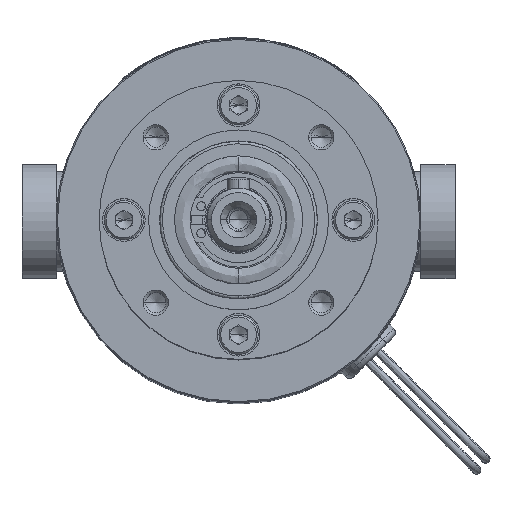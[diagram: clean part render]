
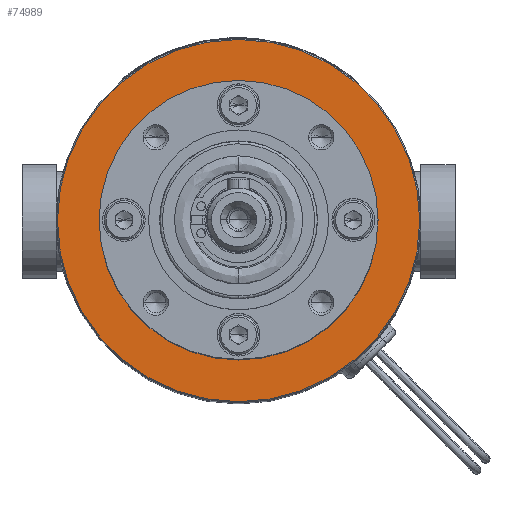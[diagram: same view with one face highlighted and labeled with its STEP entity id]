
A CAD part, top view. The second image highlights one B-rep face of the part: STEP entity #74989.
In plain terms, the highlighted planar face has unit normal (0, 0, 1).
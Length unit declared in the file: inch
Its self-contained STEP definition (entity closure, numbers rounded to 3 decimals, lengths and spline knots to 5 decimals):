
#6463 = AXIS2_PLACEMENT_3D ( 'NONE', #132324, #70871, #8879 ) ;
#8879 = DIRECTION ( 'NONE',  ( 1., 0., 0. ) ) ;
#11173 = CARTESIAN_POINT ( 'NONE',  ( 0., 0., 0.477 ) ) ;
#11465 = CARTESIAN_POINT ( 'NONE',  ( 0., 0., 0.477 ) ) ;
#16891 = CARTESIAN_POINT ( 'NONE',  ( 0., 0., 0.477 ) ) ;
#18855 = PLANE ( 'NONE',  #6463 ) ;
#21606 = DIRECTION ( 'NONE',  ( 1., 0., 0. ) ) ;
#21900 = DIRECTION ( 'NONE',  ( 1., 0., 0. ) ) ;
#25258 = ORIENTED_EDGE ( 'NONE', *, *, #126946, .T. ) ;
#27320 = DIRECTION ( 'NONE',  ( 1., 0., 0. ) ) ;
#29174 = ORIENTED_EDGE ( 'NONE', *, *, #74999, .T. ) ;
#32758 = AXIS2_PLACEMENT_3D ( 'NONE', #11465, #83719, #21900 ) ;
#40115 = CARTESIAN_POINT ( 'NONE',  ( 0., 0., 0.477 ) ) ;
#43830 = CARTESIAN_POINT ( 'NONE',  ( -1.585, 0., 0.477 ) ) ;
#44516 = CARTESIAN_POINT ( 'NONE',  ( -1.1612, 0., 0.477 ) ) ;
#46729 = CIRCLE ( 'NONE', #87661, 1.585 ) ;
#46835 = ORIENTED_EDGE ( 'NONE', *, *, #90066, .F. ) ;
#46836 = EDGE_CURVE ( 'NONE', #98004, #89951, #89775, .T. ) ;
#50493 = DIRECTION ( 'NONE',  ( 1., 0., 0. ) ) ;
#55916 = ORIENTED_EDGE ( 'NONE', *, *, #46836, .F. ) ;
#70871 = DIRECTION ( 'NONE',  ( 0., 0., 1. ) ) ;
#71502 = FACE_OUTER_BOUND ( 'NONE', #99632, .T. ) ;
#71627 = EDGE_LOOP ( 'NONE', ( #55916, #46835 ) ) ;
#72433 = AXIS2_PLACEMENT_3D ( 'NONE', #16891, #88998, #27320 ) ;
#72915 = CARTESIAN_POINT ( 'NONE',  ( 1.585, 0., 0.477 ) ) ;
#74989 = ADVANCED_FACE ( 'NONE', ( #71502, #126118 ), #18855, .T. ) ;
#74999 = EDGE_CURVE ( 'NONE', #91192, #88784, #85866, .T. ) ;
#83400 = DIRECTION ( 'NONE',  ( 0., 0., 1. ) ) ;
#83719 = DIRECTION ( 'NONE',  ( 0., 0., 1. ) ) ;
#85866 = CIRCLE ( 'NONE', #133411, 1.585 ) ;
#87661 = AXIS2_PLACEMENT_3D ( 'NONE', #11173, #83400, #21606 ) ;
#88784 = VERTEX_POINT ( 'NONE', #72915 ) ;
#88998 = DIRECTION ( 'NONE',  ( 0., 0., 1. ) ) ;
#89266 = CIRCLE ( 'NONE', #72433, 1.1612 ) ;
#89775 = CIRCLE ( 'NONE', #32758, 1.1612 ) ;
#89951 = VERTEX_POINT ( 'NONE', #44516 ) ;
#90066 = EDGE_CURVE ( 'NONE', #89951, #98004, #89266, .T. ) ;
#91192 = VERTEX_POINT ( 'NONE', #43830 ) ;
#98004 = VERTEX_POINT ( 'NONE', #119758 ) ;
#99632 = EDGE_LOOP ( 'NONE', ( #29174, #25258 ) ) ;
#112121 = DIRECTION ( 'NONE',  ( 0., 0., 1. ) ) ;
#119758 = CARTESIAN_POINT ( 'NONE',  ( 1.1612, 0., 0.477 ) ) ;
#126118 = FACE_BOUND ( 'NONE', #71627, .T. ) ;
#126946 = EDGE_CURVE ( 'NONE', #88784, #91192, #46729, .T. ) ;
#132324 = CARTESIAN_POINT ( 'NONE',  ( 0., 1.595, 0.477 ) ) ;
#133411 = AXIS2_PLACEMENT_3D ( 'NONE', #40115, #112121, #50493 ) ;
